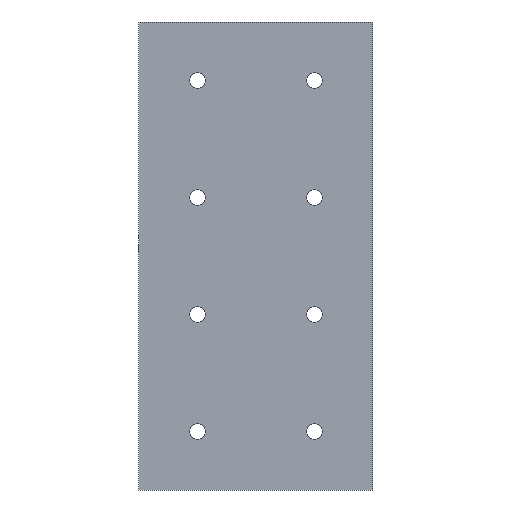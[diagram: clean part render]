
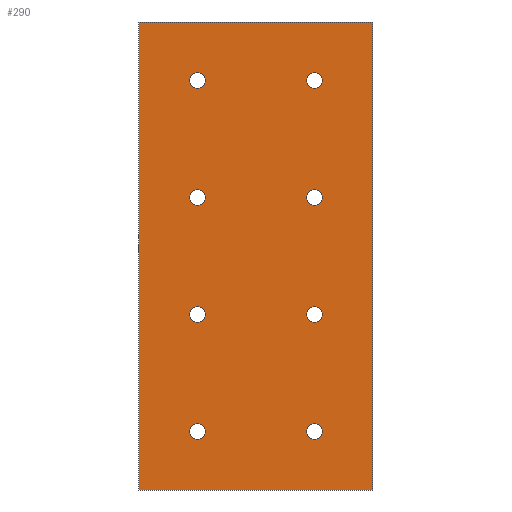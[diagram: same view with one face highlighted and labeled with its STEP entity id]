
A CAD part, front view. The second image highlights one B-rep face of the part: STEP entity #290.
In plain terms, the highlighted planar face has unit normal (0, -1, 0).
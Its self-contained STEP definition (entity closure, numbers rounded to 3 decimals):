
#23=FACE_BOUND('',#73,.T.);
#24=FACE_BOUND('',#74,.T.);
#25=FACE_BOUND('',#75,.T.);
#26=FACE_BOUND('',#76,.T.);
#27=FACE_BOUND('',#77,.T.);
#28=FACE_BOUND('',#78,.T.);
#29=FACE_BOUND('',#79,.T.);
#30=FACE_BOUND('',#80,.T.);
#36=PLANE('',#343);
#50=FACE_OUTER_BOUND('',#72,.T.);
#72=EDGE_LOOP('',(#257,#258,#259,#260));
#73=EDGE_LOOP('',(#261));
#74=EDGE_LOOP('',(#262));
#75=EDGE_LOOP('',(#263));
#76=EDGE_LOOP('',(#264));
#77=EDGE_LOOP('',(#265));
#78=EDGE_LOOP('',(#266));
#79=EDGE_LOOP('',(#267));
#80=EDGE_LOOP('',(#268));
#85=LINE('',#454,#105);
#90=LINE('',#468,#110);
#96=LINE('',#492,#116);
#99=LINE('',#497,#119);
#105=VECTOR('',#376,10.);
#110=VECTOR('',#389,10.);
#116=VECTOR('',#415,10.);
#119=VECTOR('',#420,10.);
#122=CIRCLE('',#316,1.65);
#124=CIRCLE('',#319,1.65);
#126=CIRCLE('',#322,1.65);
#128=CIRCLE('',#325,1.65);
#130=CIRCLE('',#329,1.65);
#132=CIRCLE('',#333,1.65);
#134=CIRCLE('',#336,1.65);
#136=CIRCLE('',#339,1.65);
#138=VERTEX_POINT('',#430);
#140=VERTEX_POINT('',#436);
#142=VERTEX_POINT('',#442);
#144=VERTEX_POINT('',#448);
#145=VERTEX_POINT('',#452);
#146=VERTEX_POINT('',#453);
#150=VERTEX_POINT('',#463);
#151=VERTEX_POINT('',#467);
#154=VERTEX_POINT('',#475);
#156=VERTEX_POINT('',#481);
#158=VERTEX_POINT('',#487);
#159=VERTEX_POINT('',#491);
#163=EDGE_CURVE('',#138,#138,#122,.T.);
#166=EDGE_CURVE('',#140,#140,#124,.T.);
#169=EDGE_CURVE('',#142,#142,#126,.T.);
#172=EDGE_CURVE('',#144,#144,#128,.T.);
#173=EDGE_CURVE('',#145,#146,#85,.T.);
#179=EDGE_CURVE('',#150,#150,#130,.T.);
#180=EDGE_CURVE('',#151,#145,#90,.T.);
#185=EDGE_CURVE('',#154,#154,#132,.T.);
#188=EDGE_CURVE('',#156,#156,#134,.T.);
#191=EDGE_CURVE('',#158,#158,#136,.T.);
#192=EDGE_CURVE('',#159,#151,#96,.T.);
#195=EDGE_CURVE('',#146,#159,#99,.T.);
#257=ORIENTED_EDGE('',*,*,#195,.F.);
#258=ORIENTED_EDGE('',*,*,#173,.F.);
#259=ORIENTED_EDGE('',*,*,#180,.F.);
#260=ORIENTED_EDGE('',*,*,#192,.F.);
#261=ORIENTED_EDGE('',*,*,#188,.F.);
#262=ORIENTED_EDGE('',*,*,#185,.F.);
#263=ORIENTED_EDGE('',*,*,#179,.F.);
#264=ORIENTED_EDGE('',*,*,#169,.F.);
#265=ORIENTED_EDGE('',*,*,#172,.F.);
#266=ORIENTED_EDGE('',*,*,#166,.F.);
#267=ORIENTED_EDGE('',*,*,#163,.F.);
#268=ORIENTED_EDGE('',*,*,#191,.F.);
#290=ADVANCED_FACE('',(#50,#23,#24,#25,#26,#27,#28,#29,#30),#36,.F.);
#316=AXIS2_PLACEMENT_3D('',#432,#351,#352);
#319=AXIS2_PLACEMENT_3D('',#438,#358,#359);
#322=AXIS2_PLACEMENT_3D('',#444,#365,#366);
#325=AXIS2_PLACEMENT_3D('',#450,#372,#373);
#329=AXIS2_PLACEMENT_3D('',#465,#385,#386);
#333=AXIS2_PLACEMENT_3D('',#477,#397,#398);
#336=AXIS2_PLACEMENT_3D('',#483,#404,#405);
#339=AXIS2_PLACEMENT_3D('',#489,#411,#412);
#343=AXIS2_PLACEMENT_3D('',#500,#424,#425);
#351=DIRECTION('center_axis',(0.,-1.,0.));
#352=DIRECTION('ref_axis',(1.,0.,0.));
#358=DIRECTION('center_axis',(0.,-1.,0.));
#359=DIRECTION('ref_axis',(1.,0.,0.));
#365=DIRECTION('center_axis',(0.,-1.,0.));
#366=DIRECTION('ref_axis',(1.,0.,0.));
#372=DIRECTION('center_axis',(0.,-1.,0.));
#373=DIRECTION('ref_axis',(1.,0.,0.));
#376=DIRECTION('',(0.,0.,-1.));
#385=DIRECTION('center_axis',(0.,-1.,0.));
#386=DIRECTION('ref_axis',(1.,0.,0.));
#389=DIRECTION('',(1.,0.,0.));
#397=DIRECTION('center_axis',(0.,-1.,0.));
#398=DIRECTION('ref_axis',(1.,0.,0.));
#404=DIRECTION('center_axis',(0.,-1.,0.));
#405=DIRECTION('ref_axis',(1.,0.,0.));
#411=DIRECTION('center_axis',(0.,-1.,0.));
#412=DIRECTION('ref_axis',(1.,0.,0.));
#415=DIRECTION('',(0.,0.,1.));
#420=DIRECTION('',(-1.,0.,0.));
#424=DIRECTION('center_axis',(0.,1.,0.));
#425=DIRECTION('ref_axis',(0.,0.,1.));
#430=CARTESIAN_POINT('',(10.85,0.,62.5));
#432=CARTESIAN_POINT('Origin',(12.5,0.,62.5));
#436=CARTESIAN_POINT('',(10.85,0.,37.5));
#438=CARTESIAN_POINT('Origin',(12.5,0.,37.5));
#442=CARTESIAN_POINT('',(10.85,0.,12.5));
#444=CARTESIAN_POINT('Origin',(12.5,0.,12.5));
#448=CARTESIAN_POINT('',(10.85,0.,-12.5));
#450=CARTESIAN_POINT('Origin',(12.5,0.,-12.5));
#452=CARTESIAN_POINT('',(25.,0.,75.));
#453=CARTESIAN_POINT('',(25.,0.,-25.));
#454=CARTESIAN_POINT('',(25.,0.,75.));
#463=CARTESIAN_POINT('',(-14.15,0.,62.5));
#465=CARTESIAN_POINT('Origin',(-12.5,0.,62.5));
#467=CARTESIAN_POINT('',(-25.,0.,75.));
#468=CARTESIAN_POINT('',(-25.,0.,75.));
#475=CARTESIAN_POINT('',(-14.15,0.,37.5));
#477=CARTESIAN_POINT('Origin',(-12.5,0.,37.5));
#481=CARTESIAN_POINT('',(-14.15,0.,12.5));
#483=CARTESIAN_POINT('Origin',(-12.5,0.,12.5));
#487=CARTESIAN_POINT('',(-14.15,0.,-12.5));
#489=CARTESIAN_POINT('Origin',(-12.5,0.,-12.5));
#491=CARTESIAN_POINT('',(-25.,0.,-25.));
#492=CARTESIAN_POINT('',(-25.,0.,-25.));
#497=CARTESIAN_POINT('',(0.,0.,-25.));
#500=CARTESIAN_POINT('Origin',(-12.5,0.,-12.5));
